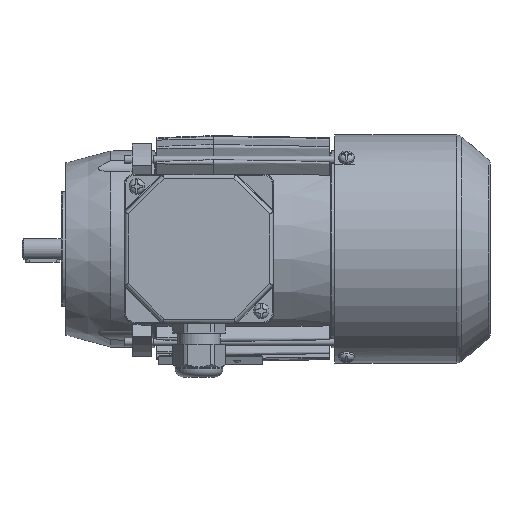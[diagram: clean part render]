
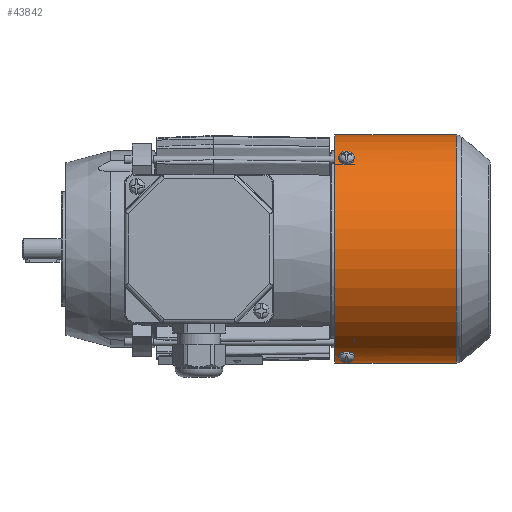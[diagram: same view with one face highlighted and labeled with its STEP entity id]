
A CAD part, top view. The second image highlights one B-rep face of the part: STEP entity #43842.
In plain terms, the highlighted cylindrical face has radius 59.6 mm (diameter 119.2 mm), a full revolution.
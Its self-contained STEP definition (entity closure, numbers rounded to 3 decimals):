
#965=CYLINDRICAL_SURFACE('',#46484,59.6);
#1419=B_SPLINE_CURVE_WITH_KNOTS('',3,(#65399,#65400,#65401,#65402,#65403,
#65404,#65405),.UNSPECIFIED.,.F.,.F.,(4,1,1,1,4),(0.,
0.002,0.004,0.006,0.007),
 .UNSPECIFIED.);
#1420=B_SPLINE_CURVE_WITH_KNOTS('',3,(#65407,#65408,#65409,#65410,#65411,
#65412,#65413),.UNSPECIFIED.,.F.,.F.,(4,1,1,1,4),(0.,
0.002,0.004,0.006,0.007),
 .UNSPECIFIED.);
#1421=B_SPLINE_CURVE_WITH_KNOTS('',3,(#65419,#65420,#65421,#65422,#65423,
#65424,#65425),.UNSPECIFIED.,.F.,.F.,(4,1,1,1,4),(0.,0.002,
0.004,0.006,0.008),
 .UNSPECIFIED.);
#1422=B_SPLINE_CURVE_WITH_KNOTS('',3,(#65433,#65434,#65435,#65436,#65437,
#65438,#65439),.UNSPECIFIED.,.F.,.F.,(4,1,1,1,4),(0.,
0.002,0.004,0.006,0.008),
 .UNSPECIFIED.);
#1423=B_SPLINE_CURVE_WITH_KNOTS('',3,(#65450,#65451,#65452,#65453,#65454,
#65455,#65456),.UNSPECIFIED.,.F.,.F.,(4,1,1,1,4),(0.,0.002,
0.004,0.006,0.008),
 .UNSPECIFIED.);
#1424=B_SPLINE_CURVE_WITH_KNOTS('',3,(#65464,#65465,#65466,#65467,#65468,
#65469,#65470),.UNSPECIFIED.,.F.,.F.,(4,1,1,1,4),(0.,0.002,
0.004,0.006,0.008),
 .UNSPECIFIED.);
#2834=CIRCLE('',#46415,59.6);
#2835=CIRCLE('',#46418,59.6);
#2836=CIRCLE('',#46420,59.6);
#2837=CIRCLE('',#46423,59.6);
#2838=CIRCLE('',#46426,59.6);
#2864=CIRCLE('',#46485,59.6);
#9347=ORIENTED_EDGE('',*,*,#15763,.T.);
#9348=ORIENTED_EDGE('',*,*,#15761,.T.);
#9349=ORIENTED_EDGE('',*,*,#15759,.T.);
#9350=ORIENTED_EDGE('',*,*,#15764,.T.);
#9351=ORIENTED_EDGE('',*,*,#15746,.F.);
#9352=ORIENTED_EDGE('',*,*,#15747,.F.);
#9353=ORIENTED_EDGE('',*,*,#15754,.T.);
#9354=ORIENTED_EDGE('',*,*,#15752,.T.);
#9355=ORIENTED_EDGE('',*,*,#15750,.T.);
#9356=ORIENTED_EDGE('',*,*,#15755,.T.);
#9357=ORIENTED_EDGE('',*,*,#15831,.F.);
#9358=ORIENTED_EDGE('',*,*,#15756,.T.);
#15746=EDGE_CURVE('',#19430,#19429,#1419,.T.);
#15747=EDGE_CURVE('',#19429,#19430,#1420,.T.);
#15750=EDGE_CURVE('',#19480,#19481,#1421,.T.);
#15752=EDGE_CURVE('',#19482,#19480,#2834,.F.);
#15754=EDGE_CURVE('',#19483,#19482,#1422,.T.);
#15755=EDGE_CURVE('',#19481,#19483,#2835,.F.);
#15756=EDGE_CURVE('',#19484,#19484,#2836,.F.);
#15759=EDGE_CURVE('',#19485,#19486,#1423,.T.);
#15761=EDGE_CURVE('',#19487,#19485,#2837,.F.);
#15763=EDGE_CURVE('',#19488,#19487,#1424,.T.);
#15764=EDGE_CURVE('',#19486,#19488,#2838,.F.);
#15831=EDGE_CURVE('',#19537,#19537,#2864,.T.);
#19429=VERTEX_POINT('',#65162);
#19430=VERTEX_POINT('',#65163);
#19480=VERTEX_POINT('',#65416);
#19481=VERTEX_POINT('',#65418);
#19482=VERTEX_POINT('',#65428);
#19483=VERTEX_POINT('',#65432);
#19484=VERTEX_POINT('',#65444);
#19485=VERTEX_POINT('',#65447);
#19486=VERTEX_POINT('',#65449);
#19487=VERTEX_POINT('',#65459);
#19488=VERTEX_POINT('',#65463);
#19537=VERTEX_POINT('',#65681);
#26530=EDGE_LOOP('',(#9347,#9348,#9349,#9350));
#26531=EDGE_LOOP('',(#9351,#9352));
#26532=EDGE_LOOP('',(#9353,#9354,#9355,#9356));
#26533=EDGE_LOOP('',(#9357));
#26534=EDGE_LOOP('',(#9358));
#28667=FACE_BOUND('',#26530,.T.);
#28668=FACE_BOUND('',#26531,.T.);
#28669=FACE_BOUND('',#26532,.T.);
#28670=FACE_BOUND('',#26533,.T.);
#28671=FACE_BOUND('',#26534,.T.);
#43842=ADVANCED_FACE('',(#28667,#28668,#28669,#28670,#28671),#965,.T.);
#46415=AXIS2_PLACEMENT_3D('',#65429,#53254,#53255);
#46418=AXIS2_PLACEMENT_3D('',#65441,#53261,#53262);
#46420=AXIS2_PLACEMENT_3D('',#65443,#53265,#53266);
#46423=AXIS2_PLACEMENT_3D('',#65460,#53274,#53275);
#46426=AXIS2_PLACEMENT_3D('',#65472,#53281,#53282);
#46484=AXIS2_PLACEMENT_3D('',#65679,#53429,#53430);
#46485=AXIS2_PLACEMENT_3D('',#65680,#53431,#53432);
#53254=DIRECTION('',(-1.,0.,0.));
#53255=DIRECTION('',(0.,0.866,-0.5));
#53261=DIRECTION('',(1.,0.,0.));
#53262=DIRECTION('',(0.,-0.866,0.5));
#53265=DIRECTION('',(1.,0.,0.));
#53266=DIRECTION('',(0.,0.,-1.));
#53274=DIRECTION('',(-1.,0.,0.));
#53275=DIRECTION('',(0.,0.,1.));
#53281=DIRECTION('',(1.,0.,0.));
#53282=DIRECTION('',(0.,0.,-1.));
#53429=DIRECTION('',(-1.,0.,0.));
#53430=DIRECTION('',(0.,0.,1.));
#53431=DIRECTION('',(-1.,0.,0.));
#53432=DIRECTION('',(0.,0.,1.));
#65162=CARTESIAN_POINT('',(67.,8.295,-59.02));
#65163=CARTESIAN_POINT('',(72.,8.295,-59.02));
#65399=CARTESIAN_POINT('',(72.,8.295,-59.02));
#65400=CARTESIAN_POINT('',(71.937,7.681,-59.106));
#65401=CARTESIAN_POINT('',(71.356,6.499,-59.249));
#65402=CARTESIAN_POINT('',(69.502,5.777,-59.318));
#65403=CARTESIAN_POINT('',(67.649,6.493,-59.25));
#65404=CARTESIAN_POINT('',(67.063,7.681,-59.106));
#65405=CARTESIAN_POINT('',(67.,8.295,-59.02));
#65407=CARTESIAN_POINT('',(67.,8.295,-59.02));
#65408=CARTESIAN_POINT('',(67.063,8.908,-58.934));
#65409=CARTESIAN_POINT('',(67.644,10.084,-58.746));
#65410=CARTESIAN_POINT('',(69.498,10.797,-58.613));
#65411=CARTESIAN_POINT('',(71.351,10.09,-58.745));
#65412=CARTESIAN_POINT('',(71.937,8.908,-58.934));
#65413=CARTESIAN_POINT('',(72.,8.295,-59.02));
#65416=CARTESIAN_POINT('',(72.,46.437,37.36));
#65418=CARTESIAN_POINT('',(67.,46.437,37.36));
#65419=CARTESIAN_POINT('',(72.,46.437,37.36));
#65420=CARTESIAN_POINT('',(72.,46.023,37.874));
#65421=CARTESIAN_POINT('',(71.458,45.191,38.867));
#65422=CARTESIAN_POINT('',(69.502,44.648,39.479));
#65423=CARTESIAN_POINT('',(67.542,45.19,38.869));
#65424=CARTESIAN_POINT('',(67.,46.023,37.874));
#65425=CARTESIAN_POINT('',(67.,46.437,37.36));
#65428=CARTESIAN_POINT('',(72.,47.484,36.02));
#65429=CARTESIAN_POINT('',(72.,0.,0.));
#65432=CARTESIAN_POINT('',(67.,47.484,36.02));
#65433=CARTESIAN_POINT('',(67.,47.484,36.02));
#65434=CARTESIAN_POINT('',(67.,47.883,35.493));
#65435=CARTESIAN_POINT('',(67.542,48.645,34.446));
#65436=CARTESIAN_POINT('',(69.498,49.108,33.771));
#65437=CARTESIAN_POINT('',(71.458,48.646,34.444));
#65438=CARTESIAN_POINT('',(72.,47.883,35.493));
#65439=CARTESIAN_POINT('',(72.,47.484,36.02));
#65441=CARTESIAN_POINT('',(67.,0.,0.));
#65443=CARTESIAN_POINT('',(126.809,0.,0.));
#65444=CARTESIAN_POINT('',(126.809,0.,-59.6));
#65447=CARTESIAN_POINT('',(72.,-55.573,21.536));
#65449=CARTESIAN_POINT('',(67.,-55.573,21.536));
#65450=CARTESIAN_POINT('',(72.,-55.573,21.536));
#65451=CARTESIAN_POINT('',(72.,-55.812,20.92));
#65452=CARTESIAN_POINT('',(71.458,-56.255,19.703));
#65453=CARTESIAN_POINT('',(69.502,-56.514,18.927));
#65454=CARTESIAN_POINT('',(67.542,-56.256,19.701));
#65455=CARTESIAN_POINT('',(67.,-55.812,20.92));
#65456=CARTESIAN_POINT('',(67.,-55.573,21.536));
#65459=CARTESIAN_POINT('',(72.,-54.936,23.112));
#65460=CARTESIAN_POINT('',(72.,0.,0.));
#65463=CARTESIAN_POINT('',(67.,-54.936,23.112));
#65464=CARTESIAN_POINT('',(67.,-54.936,23.112));
#65465=CARTESIAN_POINT('',(67.,-54.68,23.721));
#65466=CARTESIAN_POINT('',(67.542,-54.154,24.905));
#65467=CARTESIAN_POINT('',(69.498,-53.8,25.643));
#65468=CARTESIAN_POINT('',(71.458,-54.153,24.907));
#65469=CARTESIAN_POINT('',(72.,-54.68,23.721));
#65470=CARTESIAN_POINT('',(72.,-54.936,23.112));
#65472=CARTESIAN_POINT('',(67.,0.,0.));
#65679=CARTESIAN_POINT('',(3.5,0.,0.));
#65680=CARTESIAN_POINT('',(63.5,0.,0.));
#65681=CARTESIAN_POINT('',(63.5,0.,59.6));
